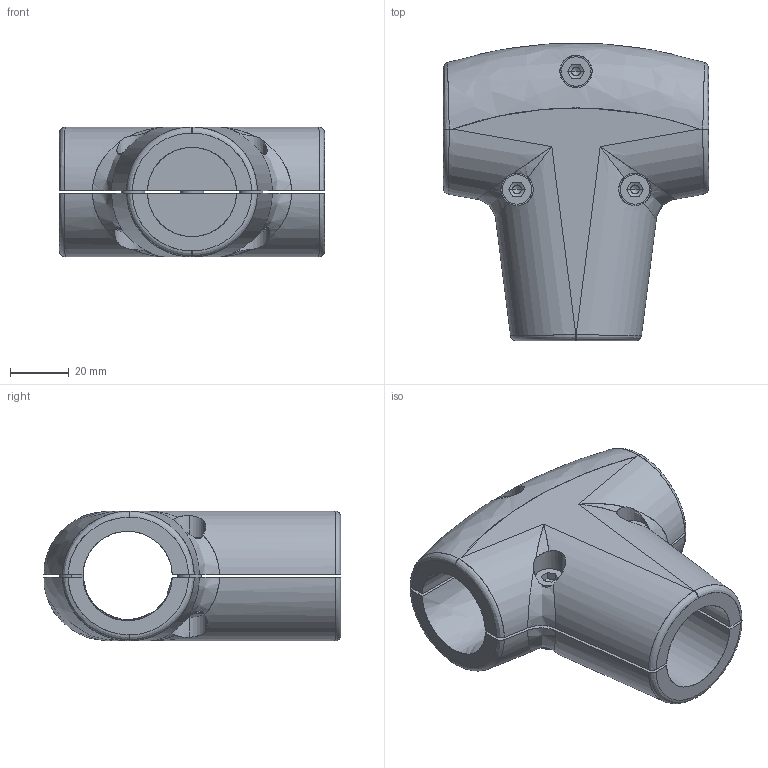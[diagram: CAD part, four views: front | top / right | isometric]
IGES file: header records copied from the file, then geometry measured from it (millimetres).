
Start section: SolidWorks IGES file using analytic representation for surfaces
Global section: file name: C:\Users\Gerard\OneDrive - Tecnodin, S.L\Escritorio\30 mm Verbinder im step. Format\31000410059.IGS; native system: SolidWorks 2016; preprocessor: SolidWorks 2016; author: Gerard; date: 240902.115026; units: millimetre
Bounding box: 90 x 100.99 x 44 mm (x, y, z)
Surface area: 47329.8 mm2 (no closed solid volume)
Topology: 0 solids, 0 shells, 192 faces, 3488 edges, 3469 vertices
Faces by surface type: revolution 111, bspline 81
